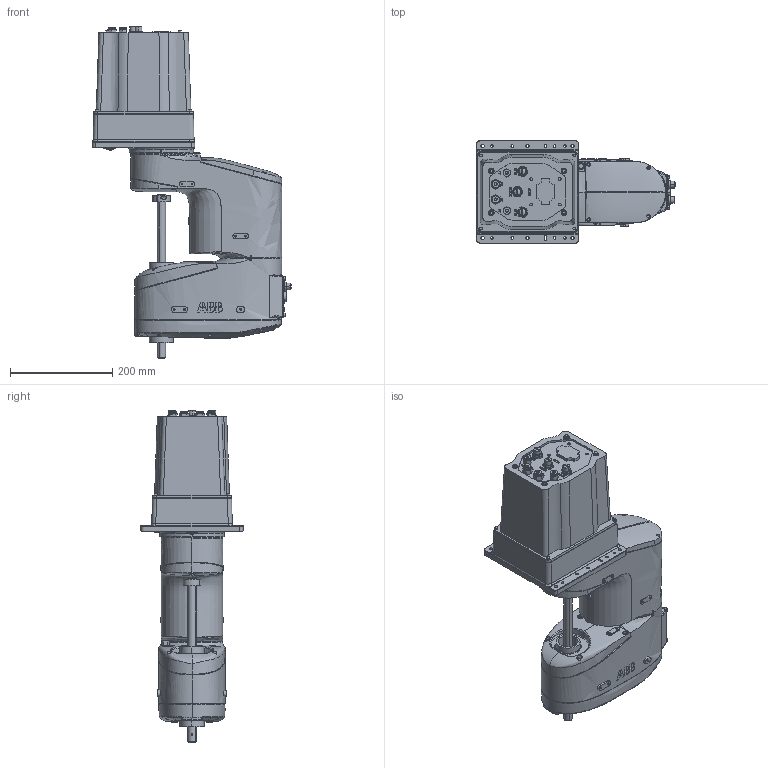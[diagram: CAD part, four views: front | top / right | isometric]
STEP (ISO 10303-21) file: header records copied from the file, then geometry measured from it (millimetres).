
FILE_DESCRIPTION (( 'STEP AP214' ), '1' );
FILE_NAME ('IRB 910INV-350_std.STEP', '2019-05-06T02:46:24', ( 'ABB' ), ( 'ABB' ), 'SwSTEP 2.0', 'SolidWorks 2018', '' );
FILE_SCHEMA (( 'AUTOMOTIVE_DESIGN' ));
Length unit declared in the file: millimetre
Products named in the file (5): Link3_C350; Link2_C350; Link1_C350; Link0_C350; IRB 910INV-350_std
Assembly tree (4 placements, depth 2):
  IRB 910INV-350_std
    Link0_C350
    Link1_C350
    Link2_C350
    Link3_C350
Bounding box: 389.57 x 200 x 650.02 mm (x, y, z)
Volume: 14936956 mm3; surface area: 631985.4 mm2
Topology: 4 solids, 4 shells, 2078 faces, 5616 edges, 3732 vertices
Faces by surface type: plane 943, bspline 456, cylinder 363, cone 270, torus 42, sphere 4
Entity records: 152361 total; most frequent: CARTESIAN_POINT 104281, ORIENTED_EDGE 11098, DIRECTION 6824, EDGE_CURVE 5549, VERTEX_POINT 3732, B_SPLINE_CURVE_WITH_KNOTS 2560, EDGE_LOOP 2375, LINE 2290
